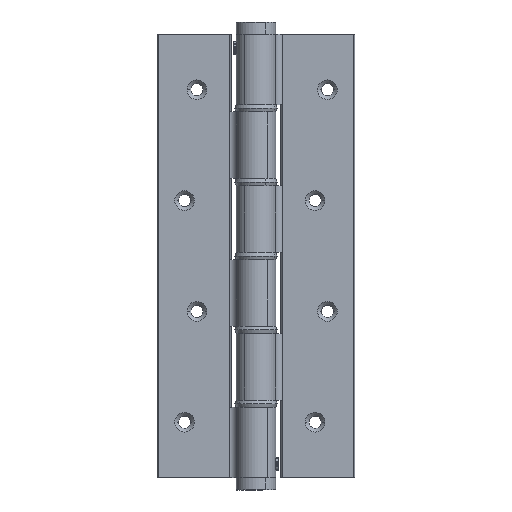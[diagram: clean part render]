
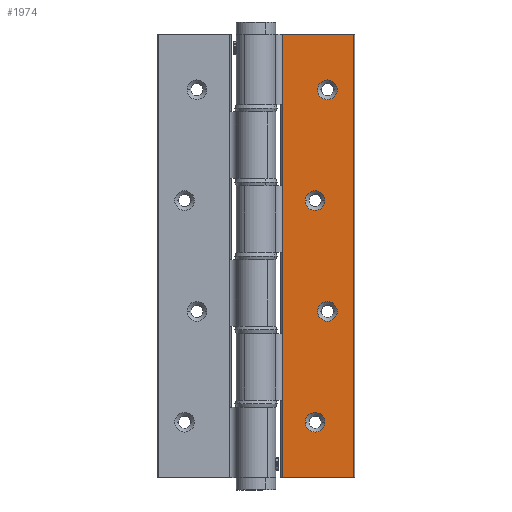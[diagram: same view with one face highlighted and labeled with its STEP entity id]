
A CAD part, front view. The second image highlights one B-rep face of the part: STEP entity #1974.
In plain terms, the highlighted planar face has unit normal (0, -1, 0) as drawn and (0, 0, 1) by its records, which use the part's own axes.
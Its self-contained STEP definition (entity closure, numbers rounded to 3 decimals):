
#365=CARTESIAN_POINT('',(33.0,67.5,-1.0));
#366=VERTEX_POINT('',#365);
#382=CARTESIAN_POINT('',(25.0,67.5,-1.0));
#383=VERTEX_POINT('',#382);
#390=CARTESIAN_POINT('',(29.0,67.5,-1.0));
#391=DIRECTION('',(0.0,0.0,-1.0));
#392=DIRECTION('',(1.0,0.0,0.0));
#393=AXIS2_PLACEMENT_3D('',#390,#391,#392);
#394=CIRCLE('',#393,4.0);
#395=EDGE_CURVE('',#366,#383,#394,.T.);
#487=CARTESIAN_POINT('',(28.0,112.5,-1.0));
#488=VERTEX_POINT('',#487);
#504=CARTESIAN_POINT('',(20.0,112.5,-1.0));
#505=VERTEX_POINT('',#504);
#512=CARTESIAN_POINT('',(24.0,112.5,-1.0));
#513=DIRECTION('',(0.0,0.0,-1.0));
#514=DIRECTION('',(1.0,0.0,0.0));
#515=AXIS2_PLACEMENT_3D('',#512,#513,#514);
#516=CIRCLE('',#515,4.0);
#517=EDGE_CURVE('',#488,#505,#516,.T.);
#529=CARTESIAN_POINT('',(33.0,157.5,-1.0));
#530=VERTEX_POINT('',#529);
#546=CARTESIAN_POINT('',(25.0,157.5,-1.0));
#547=VERTEX_POINT('',#546);
#554=CARTESIAN_POINT('',(29.0,157.5,-1.0));
#555=DIRECTION('',(0.0,0.0,-1.0));
#556=DIRECTION('',(1.0,0.0,0.0));
#557=AXIS2_PLACEMENT_3D('',#554,#555,#556);
#558=CIRCLE('',#557,4.0);
#559=EDGE_CURVE('',#530,#547,#558,.T.);
#719=CARTESIAN_POINT('',(28.0,22.5,-1.0));
#720=VERTEX_POINT('',#719);
#734=CARTESIAN_POINT('',(20.0,22.5,-1.0));
#735=VERTEX_POINT('',#734);
#742=CARTESIAN_POINT('',(24.0,22.5,-1.0));
#743=DIRECTION('',(0.0,0.0,-1.0));
#744=DIRECTION('',(1.0,0.0,0.0));
#745=AXIS2_PLACEMENT_3D('',#742,#743,#744);
#746=CIRCLE('',#745,4.0);
#747=EDGE_CURVE('',#720,#735,#746,.T.);
#1336=CARTESIAN_POINT('',(39.7,0.0,-1.0));
#1337=VERTEX_POINT('',#1336);
#1345=CARTESIAN_POINT('',(10.817,0.0,-1.0));
#1346=VERTEX_POINT('',#1345);
#1347=CARTESIAN_POINT('',(39.7,0.0,-1.0));
#1348=DIRECTION('',(-1.0,0.0,0.0));
#1349=VECTOR('',#1348,28.883);
#1350=LINE('',#1347,#1349);
#1351=EDGE_CURVE('',#1337,#1346,#1350,.T.);
#1556=CARTESIAN_POINT('',(10.817,180.0,-1.0));
#1557=VERTEX_POINT('',#1556);
#1565=CARTESIAN_POINT('',(39.7,180.0,-1.0));
#1566=VERTEX_POINT('',#1565);
#1567=CARTESIAN_POINT('',(39.7,180.0,-1.0));
#1568=DIRECTION('',(-1.0,0.0,0.0));
#1569=VECTOR('',#1568,28.883);
#1570=LINE('',#1567,#1569);
#1571=EDGE_CURVE('',#1566,#1557,#1570,.T.);
#1861=CARTESIAN_POINT('',(10.817,0.0,-1.0));
#1862=DIRECTION('',(0.0,1.0,0.0));
#1863=VECTOR('',#1862,180.0);
#1864=LINE('',#1861,#1863);
#1865=EDGE_CURVE('',#1346,#1557,#1864,.T.);
#1918=CARTESIAN_POINT('',(9.372,-9.0,-1.0));
#1919=DIRECTION('',(0.0,0.0,1.0));
#1920=DIRECTION('',(1.0,0.0,0.0));
#1921=AXIS2_PLACEMENT_3D('',#1918,#1919,#1920);
#1922=PLANE('',#1921);
#1923=CARTESIAN_POINT('',(39.7,0.0,-1.0));
#1924=DIRECTION('',(0.0,1.0,0.0));
#1925=VECTOR('',#1924,180.0);
#1926=LINE('',#1923,#1925);
#1927=EDGE_CURVE('',#1337,#1566,#1926,.T.);
#1928=ORIENTED_EDGE('',*,*,#1927,.T.);
#1929=ORIENTED_EDGE('',*,*,#1571,.T.);
#1930=ORIENTED_EDGE('',*,*,#1865,.F.);
#1931=ORIENTED_EDGE('',*,*,#1351,.F.);
#1932=EDGE_LOOP('',(#1928,#1929,#1930,#1931));
#1933=FACE_OUTER_BOUND('',#1932,.T.);
#1934=ORIENTED_EDGE('',*,*,#747,.T.);
#1935=CARTESIAN_POINT('',(24.0,22.5,-1.0));
#1936=DIRECTION('',(0.0,0.0,-1.0));
#1937=DIRECTION('',(1.0,0.0,0.0));
#1938=AXIS2_PLACEMENT_3D('',#1935,#1936,#1937);
#1939=CIRCLE('',#1938,4.0);
#1940=EDGE_CURVE('',#735,#720,#1939,.T.);
#1941=ORIENTED_EDGE('',*,*,#1940,.T.);
#1942=EDGE_LOOP('',(#1934,#1941));
#1943=FACE_BOUND('',#1942,.T.);
#1944=ORIENTED_EDGE('',*,*,#395,.T.);
#1945=CARTESIAN_POINT('',(29.0,67.5,-1.0));
#1946=DIRECTION('',(0.0,0.0,-1.0));
#1947=DIRECTION('',(1.0,0.0,0.0));
#1948=AXIS2_PLACEMENT_3D('',#1945,#1946,#1947);
#1949=CIRCLE('',#1948,4.0);
#1950=EDGE_CURVE('',#383,#366,#1949,.T.);
#1951=ORIENTED_EDGE('',*,*,#1950,.T.);
#1952=EDGE_LOOP('',(#1944,#1951));
#1953=FACE_BOUND('',#1952,.T.);
#1954=ORIENTED_EDGE('',*,*,#517,.T.);
#1955=CARTESIAN_POINT('',(24.0,112.5,-1.0));
#1956=DIRECTION('',(0.0,0.0,-1.0));
#1957=DIRECTION('',(1.0,0.0,0.0));
#1958=AXIS2_PLACEMENT_3D('',#1955,#1956,#1957);
#1959=CIRCLE('',#1958,4.0);
#1960=EDGE_CURVE('',#505,#488,#1959,.T.);
#1961=ORIENTED_EDGE('',*,*,#1960,.T.);
#1962=EDGE_LOOP('',(#1954,#1961));
#1963=FACE_BOUND('',#1962,.T.);
#1964=ORIENTED_EDGE('',*,*,#559,.T.);
#1965=CARTESIAN_POINT('',(29.0,157.5,-1.0));
#1966=DIRECTION('',(0.0,0.0,-1.0));
#1967=DIRECTION('',(1.0,0.0,0.0));
#1968=AXIS2_PLACEMENT_3D('',#1965,#1966,#1967);
#1969=CIRCLE('',#1968,4.0);
#1970=EDGE_CURVE('',#547,#530,#1969,.T.);
#1971=ORIENTED_EDGE('',*,*,#1970,.T.);
#1972=EDGE_LOOP('',(#1964,#1971));
#1973=FACE_BOUND('',#1972,.T.);
#1974=ADVANCED_FACE('',(#1933,#1943,#1953,#1963,#1973),#1922,.T.);
